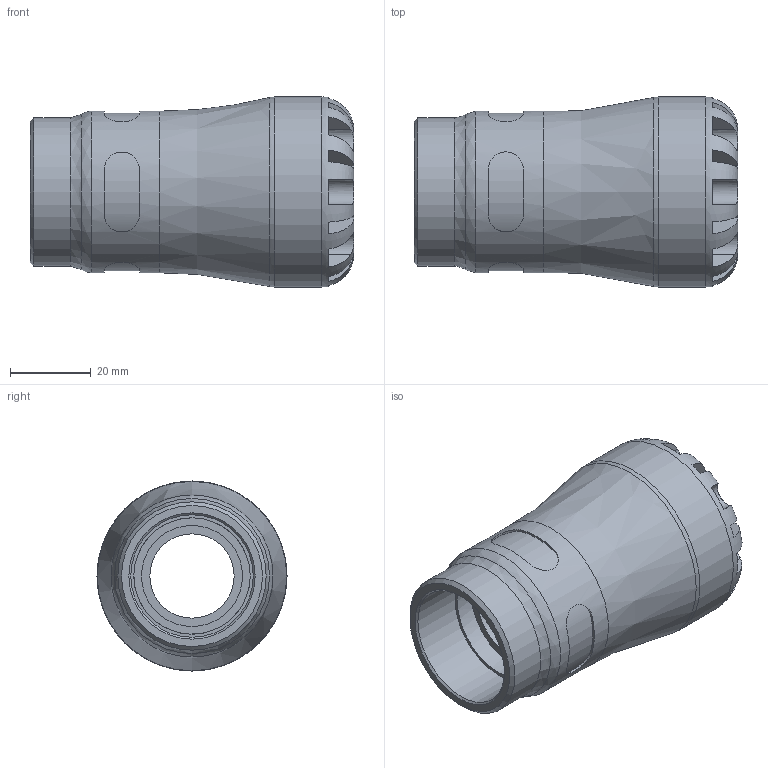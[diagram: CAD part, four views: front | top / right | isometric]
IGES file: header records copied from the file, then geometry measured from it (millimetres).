
Global section: file name: 1003G0025010_1903G0025010.ipt; native system: Autodesk Inventor 2015; preprocessor: unknown; author: KIM; date: 20190127.091352; units: millimetre
Bounding box: 80 x 47 x 47 mm (x, y, z)
Volume: 65206 mm3; surface area: 19856 mm2
Topology: 1 solids, 1 shells, 106 faces, 273 edges, 176 vertices
Faces by surface type: plane 62, revolution 28, cylinder 15, cone 1
Full cylindrical faces by diameter (mm): 36.66 x1, 39.95 x1, 47 x1
